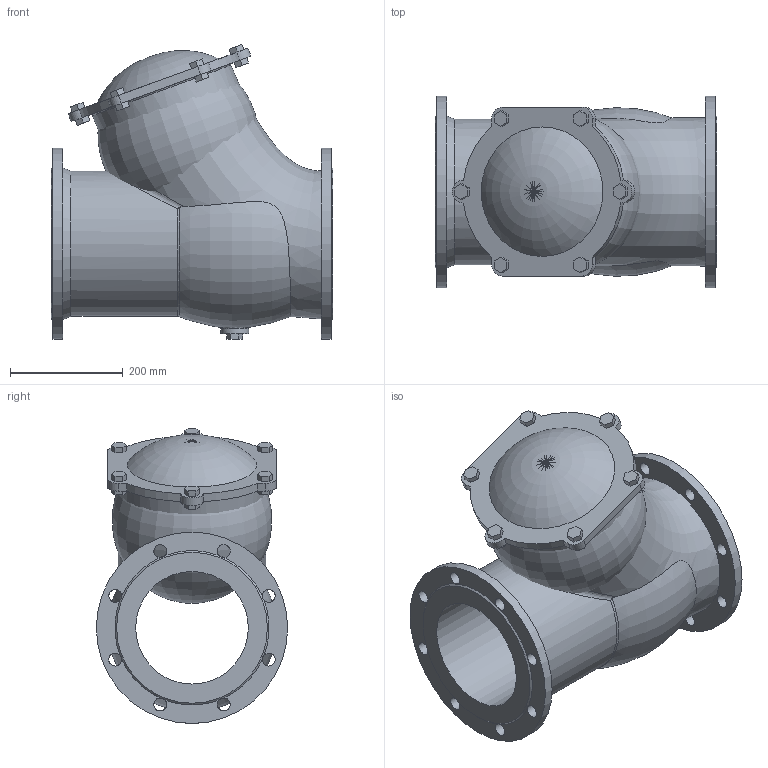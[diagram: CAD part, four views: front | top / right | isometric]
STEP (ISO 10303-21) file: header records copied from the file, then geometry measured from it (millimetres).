
FILE_DESCRIPTION(('STEP AP203'), '1');
FILE_NAME('抔黽鳧 012F.M DN200 PN10', '', ('UNSPECIFIED'), ('UNSPECIFIED'), 'ASCON STEP Converter 1.6', 'ASCON Math Kernel', '');
FILE_SCHEMA(('CONFIG_CONTROL_DESIGN'));
Length unit declared in the file: millimetre
Products named in the file (1): Клапан 012F.M DN200 PN10
Bounding box: 500 x 340 x 524 mm (x, y, z)
Volume: 13495051 mm3; surface area: 1425321.8 mm2
Topology: 1 solids, 1 shells, 180 faces, 483 edges, 311 vertices
Faces by surface type: plane 132, cylinder 38, bspline 4, cone 3, torus 3
Full cylindrical faces by diameter (mm): 23 x16, 50 x1, 200 x1, 258 x1, 340 x2
Entity records: 11756 total; most frequent: CARTESIAN_POINT 5789, DIRECTION 919, ORIENTED_EDGE 902, EDGE_CURVE 451, AXIS2_PLACEMENT_3D 318, VERTEX_POINT 308, LINE 283, VECTOR 283
